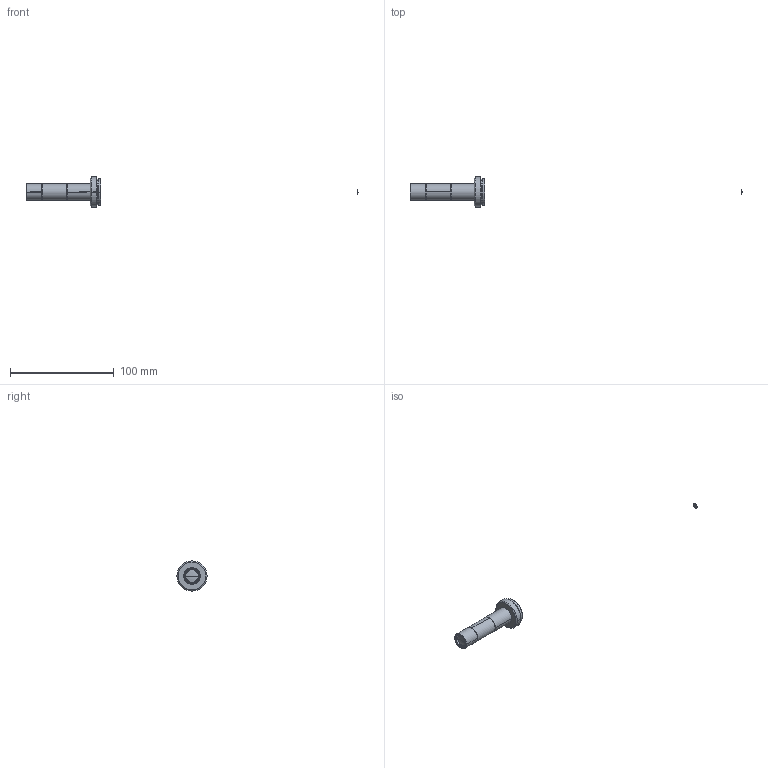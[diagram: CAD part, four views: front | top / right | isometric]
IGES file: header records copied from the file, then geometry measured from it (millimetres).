
Start section: SolidWorks IGES file using analytic representation for surfaces
Bounding box: 320.62 x 29 x 29 mm (x, y, z)
Surface area: 7404.4 mm2 (no closed solid volume)
Topology: 0 solids, 0 shells, 98 faces, 1256 edges, 1255 vertices
Faces by surface type: revolution 82, bspline 16
